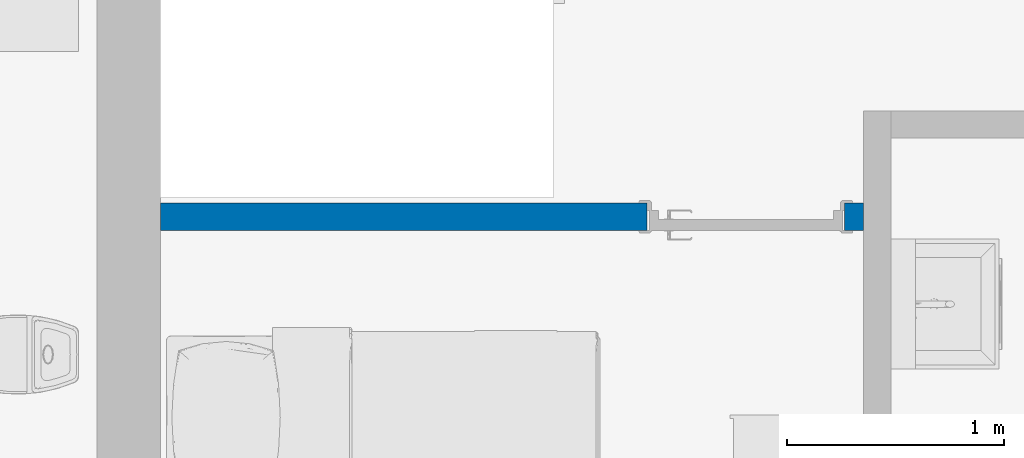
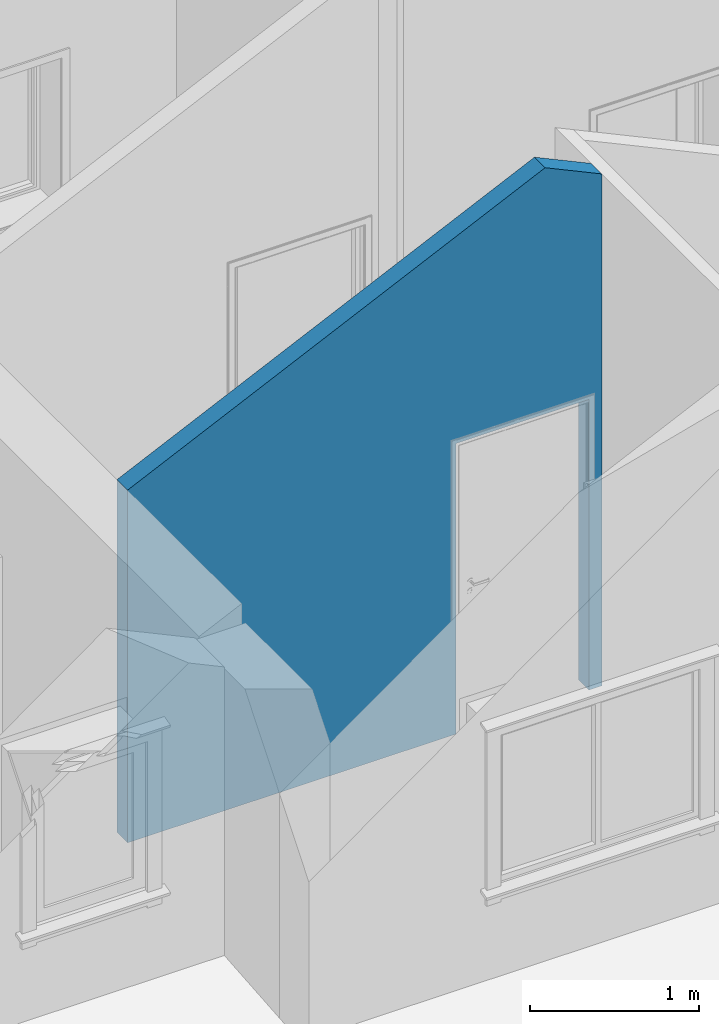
# One storey, part 11 of 44: 1 wall, 1 opening.
"""IFC2X3 building model written with IfcOpenShell, lengths in millimetres."""

import ifcopenshell
import ifcopenshell.guid

model = None  # the IFC model being written
_history = None  # IfcOwnerHistory: only IFC2X3 demands one
_inside = {}  # id of a spatial element -> (the spatial element, [elements in it])
_under = {}  # id of a project, library or spatial element -> (it, [spatial elements below it])
_declared = {}  # id of a project -> (the project, [libraries it declares])
_typed = {}  # id of a type object -> (the type object, [elements of that type])
_made_of = {}  # id of a material, layer set ... -> (it, [elements and type objects made of it])


def new_model(schema):
    """Start an empty IFC model of exactly this schema.

    Asked for "IFC4X3", IfcOpenShell would pick the latest addendum, in which some entities
    have other attributes; the version numbers below select the first issue.
    IFC2X3 requires an IfcOwnerHistory on every rooted entity: one is made here for all.
    """
    global model, _history
    if schema == "IFC4X3":
        model = ifcopenshell.file(schema_version=(4, 3, 0, 0))
    else:
        model = ifcopenshell.file(schema=schema)
    _inside.clear()
    _under.clear()
    _declared.clear()
    _typed.clear()
    _made_of.clear()
    _history = None
    if model.schema == "IFC2X3":
        org = make("IfcOrganization", Name="unknown")
        user = make(
            "IfcPersonAndOrganization",
            ThePerson=make("IfcPerson", FamilyName="unknown"),
            TheOrganization=org,
        )
        app = make(
            "IfcApplication",
            ApplicationDeveloper=org,
            Version="unknown",
            ApplicationFullName="unknown",
            ApplicationIdentifier="unknown",
        )
        _history = make(
            "IfcOwnerHistory",
            OwningUser=user,
            OwningApplication=app,
            ChangeAction="ADDED",
            CreationDate=0,
        )
    return model


def make(cls, **values):
    """One entity of the class cls with the attributes given. An attribute that is None is left unset."""
    return model.create_entity(
        cls, **{name: value for name, value in values.items() if value is not None}
    )


def entity(cls, *values):
    """Any entity or typed value of the class cls, its attributes in the order of the schema. None: left unset."""
    e = model.create_entity(cls)
    for i, value in enumerate(values):
        if value is not None:
            e[i] = value
    return e


def rooted(cls, **values):
    """An entity with a GlobalId (a new one), such as an element, a storey or a relation."""
    return make(cls, GlobalId=ifcopenshell.guid.new(), OwnerHistory=_history, **values)


def si_unit(unit_type, name, prefix=None):
    """IfcSIUnit, for example si_unit("LENGTHUNIT", "METRE", prefix="MILLI")."""
    return make("IfcSIUnit", UnitType=unit_type, Prefix=prefix, Name=name)


def converted_unit(unit_type, name, factor, base, dimensions=None, offset=None):
    """IfcConversionBasedUnit, such as the inch: factor (a typed value) times the base unit."""
    return make(
        "IfcConversionBasedUnit"
        if offset is None
        else "IfcConversionBasedUnitWithOffset",
        ConversionOffset=offset,
        Dimensions=None
        if dimensions is None
        else entity("IfcDimensionalExponents", *dimensions),
        UnitType=unit_type,
        Name=name,
        ConversionFactor=make(
            "IfcMeasureWithUnit", ValueComponent=factor, UnitComponent=base
        ),
    )


def assignment(units):
    """IfcUnitAssignment: the units of a project."""
    return None if units is None else make("IfcUnitAssignment", Units=units)


def point(xyz):
    """IfcCartesianPoint."""
    return None if xyz is None else make("IfcCartesianPoint", Coordinates=xyz)


def direction(xyz):
    """IfcDirection."""
    return None if xyz is None else make("IfcDirection", DirectionRatios=xyz)


def frame(location, z_axis=None, x_axis=None):
    """IfcAxis2Placement3D, a coordinate frame: its origin and axes. An axis left out is left unset."""
    return make(
        "IfcAxis2Placement3D",
        Location=point(location),
        Axis=direction(z_axis),
        RefDirection=direction(x_axis),
    )


def frame_2d(location, x_axis=None):
    """IfcAxis2Placement2D, a coordinate frame in the plane: its origin and x axis."""
    return make(
        "IfcAxis2Placement2D", Location=point(location), RefDirection=direction(x_axis)
    )


def origin():
    """The frame at (0, 0, 0) with its axes left unset."""
    return frame((0.0, 0.0, 0.0))


def place(relative_to, where):
    """IfcLocalPlacement: puts the frame where relative to a parent placement (None: the world)."""
    return make(
        "IfcLocalPlacement", PlacementRelTo=relative_to, RelativePlacement=where
    )


def context(
    kind, dimensions, precision=None, world=None, true_north=None, identifier=None
):
    """IfcGeometricRepresentationContext, for example the 3D "Model" context."""
    return make(
        "IfcGeometricRepresentationContext",
        ContextIdentifier=identifier,
        ContextType=kind,
        CoordinateSpaceDimension=dimensions,
        Precision=precision,
        WorldCoordinateSystem=world,
        TrueNorth=true_north,
    )


def subcontext(parent, identifier, kind, view, scale=None):
    """IfcGeometricRepresentationSubContext, for example "Body" below "Model"."""
    return make(
        "IfcGeometricRepresentationSubContext",
        ContextIdentifier=identifier,
        ContextType=kind,
        ParentContext=parent,
        TargetScale=scale,
        TargetView=view,
    )


def project(units=None, contexts=None):
    """IfcProject with its units and contexts."""
    return rooted(
        "IfcProject",
        Name="project",
        RepresentationContexts=contexts,
        UnitsInContext=assignment(units),
    )


def spatial(cls, under=None, at=None, **own):
    """A site, building, storey or space (cls), placed at a placement, below another one or the project."""
    s = rooted(cls, ObjectPlacement=at, **own)
    if under is not None:
        _under.setdefault(under.id(), (under, []))[1].append(s)
    return s


def polyline(points):
    """IfcPolyline through the points."""
    return make("IfcPolyline", Points=[point(p) for p in points])


def profile(cls, at=None, kind="AREA", **sizes):
    """A parametric profile (cls). Its sizes go by their IFC names, for example OverallWidth=200.0."""
    return make(cls, ProfileType=kind, Position=at, **sizes)


def rectangle(**sizes):
    """IfcRectangleProfileDef."""
    return profile("IfcRectangleProfileDef", **sizes)


def extrude(swept, where, along, depth):
    """IfcExtrudedAreaSolid: the profile swept, set in the frame where, extruded along a direction by depth."""
    return make(
        "IfcExtrudedAreaSolid",
        SweptArea=swept,
        Position=where,
        ExtrudedDirection=direction(along),
        Depth=depth,
    )


def clip(a, b, op="DIFFERENCE"):
    """IfcBooleanClippingResult: the solid a cut by the half space b."""
    return make(
        "IfcBooleanClippingResult", Operator=op, FirstOperand=a, SecondOperand=b
    )


def bounded_halfspace(plane, agree, where, boundary):
    """IfcPolygonalBoundedHalfSpace: a half space limited to a polygon's prism."""
    return make(
        "IfcPolygonalBoundedHalfSpace",
        BaseSurface=make("IfcPlane", Position=plane),
        AgreementFlag=agree,
        Position=where,
        PolygonalBoundary=boundary,
    )


def shape(context_of_items, identifier, shape_type, items):
    """IfcShapeRepresentation: the items that make up one representation, for example the "Body"."""
    return make(
        "IfcShapeRepresentation",
        ContextOfItems=context_of_items,
        RepresentationIdentifier=identifier,
        RepresentationType=shape_type,
        Items=items,
    )


def material(Name=None, Category=None):
    """IfcMaterial."""
    return make("IfcMaterial", Name=Name, Category=Category)


def layer(
    of_material, thickness, ventilated=None, Name=None, Category=None, Priority=None
):
    """IfcMaterialLayer: one layer of a wall or slab, of a material (None: an air gap)."""
    return make(
        "IfcMaterialLayer",
        Material=of_material,
        LayerThickness=thickness,
        IsVentilated=ventilated,
        Name=Name,
        Category=Category,
        Priority=Priority,
    )


def layer_set(layers, Name=None):
    """IfcMaterialLayerSet."""
    return make("IfcMaterialLayerSet", MaterialLayers=layers, LayerSetName=Name)


def layer_usage(for_layer_set, set_direction, sense, offset, extent=None):
    """IfcMaterialLayerSetUsage: how a layer set lies in its element."""
    return make(
        "IfcMaterialLayerSetUsage",
        ForLayerSet=for_layer_set,
        LayerSetDirection=set_direction,
        DirectionSense=sense,
        OffsetFromReferenceLine=offset,
        ReferenceExtent=extent,
    )


def made_of(thing, what):
    """Note that an element or type object is made of a material, layer set ...; save() writes the relation."""
    if what is not None:
        _made_of.setdefault(what.id(), (what, []))[1].append(thing)
    return thing


def type_object(cls, material=None, **own):
    """A type object (cls), such as IfcWallType, which elements share."""
    return made_of(rooted(cls, **own), material)


def element(
    cls,
    number,
    at=None,
    inside=None,
    cuts=None,
    type_object=None,
    material=None,
    context=None,
    identifier="Body",
    shape_type=None,
    held_by="IfcProductDefinitionShape",
    body=None,
    shapes=None,
    **own,
):
    """One element of the class cls, such as IfcWall. Its Tag is "e" and its number.

    at: its placement. inside: the storey or other place that contains it. cuts: it is an
    opening in that element (IfcRelVoidsElement). A single representation is given by context,
    identifier, shape_type and body (its items); several are given by shapes. held_by: the class
    of the entity that holds the representations. save() writes the other relations.
    """
    e = rooted(cls, Tag="e%d" % number, ObjectPlacement=at, **own)
    if body is not None:
        shapes = [shape(context, identifier, shape_type, body)]
    if shapes is not None:
        e.Representation = make(held_by, Representations=shapes)
    if inside is not None:
        _inside.setdefault(inside.id(), (inside, []))[1].append(e)
    if cuts is not None:
        rooted(
            "IfcRelVoidsElement", RelatingBuildingElement=cuts, RelatedOpeningElement=e
        )
    if type_object is not None:
        _typed.setdefault(type_object.id(), (type_object, []))[1].append(e)
    return made_of(e, material)


def aggregate(whole, parts):
    """IfcRelAggregates: a whole, such as a stair, and the parts it consists of."""
    return rooted("IfcRelAggregates", RelatingObject=whole, RelatedObjects=parts)


def save(model, path):
    """Write the relations noted so far, then the file.

    IfcRelAggregates (storeys below a building ...), IfcRelContainedInSpatialStructure (elements
    in a storey), IfcRelDefinesByType, IfcRelAssociatesMaterial and IfcRelDeclares: one each for
    every whole, place, type object, material and project.
    """
    for whole, parts in _under.values():
        aggregate(whole, parts)
    for where, things in _inside.values():
        rooted(
            "IfcRelContainedInSpatialStructure",
            RelatedElements=things,
            RelatingStructure=where,
        )
    for kind, things in _typed.values():
        rooted("IfcRelDefinesByType", RelatedObjects=things, RelatingType=kind)
    for what, things in _made_of.values():
        rooted("IfcRelAssociatesMaterial", RelatedObjects=things, RelatingMaterial=what)
    for by, libraries in _declared.values():
        rooted("IfcRelDeclares", RelatingContext=by, RelatedDefinitions=libraries)
    model.write(path)


model = new_model("IFC2X3")

# Units and contexts
model_context = context("Model", 3, precision=0.01, world=origin(), true_north=direction((0.0, 1.0)))
body_context = subcontext(model_context, "Body", "Model", "MODEL_VIEW")
ifc_project = project(units=[si_unit("LENGTHUNIT", "METRE", prefix="MILLI"), si_unit("AREAUNIT", "SQUARE_METRE"), si_unit("VOLUMEUNIT", "CUBIC_METRE"), converted_unit("PLANEANGLEUNIT", "DEGREE", entity("IfcPlaneAngleMeasure", 0.017453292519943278), si_unit("PLANEANGLEUNIT", "RADIAN"), dimensions=[0, 0, 0, 0, 0, 0, 0])], contexts=[model_context])

# Site, building, storey
site_placement = place(None, origin())
site = spatial("IfcSite", under=ifc_project, at=site_placement, Name="Default", CompositionType="ELEMENT")
building_placement = place(site_placement, origin())
building = spatial("IfcBuilding", under=site, at=building_placement, CompositionType="ELEMENT")
storey_placement = place(building_placement, frame((0.0, 0.0, 2681.0)))
storey = spatial("IfcBuildingStorey", under=building, at=storey_placement, Name="Et. 2", CompositionType="ELEMENT", Elevation=2681.0)

# Wall, opening
ifc_material_1 = material(Name="Vegg - Gips - Innvendig - Hvit")
ifc_layer_1 = layer(ifc_material_1, 13.000000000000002)
ifc_material_2 = material(Name="Vegg - Stender - Stål - Isolert")
ifc_layer_2 = layer(ifc_material_2, 100.0)
ifc_layer_3 = layer(ifc_material_1, 13.000000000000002)
ifc_layer_set = layer_set([ifc_layer_1, ifc_layer_2, ifc_layer_3], Name="Basic Wall:24-GSIG-13_100_13")
ifc_layer_usage = layer_usage(ifc_layer_set, "AXIS2", "NEGATIVE", 63.00000000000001)
wall_type = type_object("IfcWallType", Name="Basic Wall:24-GSIG-13_100_13", PredefinedType="STANDARD", material=ifc_layer_set)
wall_placement = place(storey_placement, frame((22324.00958675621, 12169.058719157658, 0.0)))
wall = element("IfcWallStandardCase", 1, at=wall_placement, inside=storey, type_object=wall_type, material=ifc_layer_usage, Name="Basic Wall:24-GSIG-13_100_13", context=body_context, shape_type="Clipping", body=[
    clip(clip(extrude(rectangle(XDim=3240.9999999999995, YDim=126.00000000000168, at=frame_2d((1620.4999999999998, 6.750155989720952e-13), x_axis=(-1.0, 0.0))), origin(), (0.0, 0.0, 1.0), 3879.5941993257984), bounded_halfspace(frame((0.0, -63.0, 2548.7521429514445), z_axis=(-0.42261826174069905, 0.0, 0.9063077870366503), x_axis=(0.0, -1.0, 0.0)), False, frame((0.0, -63.0, 2548.7521429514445)), polyline([(0.0, 0.0), (2854.0, 0.0), (2854.0, 126.0), (0.0, 126.0), (0.0, 0.0)]))), bounded_halfspace(frame((2854.0, -63.0, 3879.5941993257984), z_axis=(0.42261826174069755, 0.0, 0.9063077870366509), x_axis=(0.0, 1.0, 0.0)), False, frame((2854.0, -63.0, 3879.5941993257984)), polyline([(0.0, 0.0), (387.0, 0.0), (387.0, 126.0), (0.0, 126.0), (0.0, 0.0)]))),
])
opening_placement = place(wall_placement, frame((3154.0, 63.0, 0.0)))
element("IfcOpeningElement", 2, at=opening_placement, cuts=wall, Name="ID Hel:9x21M:1", ObjectType="Opening", context=body_context, shape_type="SweptSolid", body=[
    extrude(rectangle(XDim=910.0000000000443, YDim=2100.0000000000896, at=frame_2d((1050.0000000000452, 455.00000000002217), x_axis=(0.0, -1.0))), frame((0.0, 0.0, 0.0), z_axis=(0.0, -1.0, 0.0), x_axis=(0.0, 0.0, 1.0)), (0.0, 0.0, 1.0), 126.00000000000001),
])

save(model, "model.ifc")
